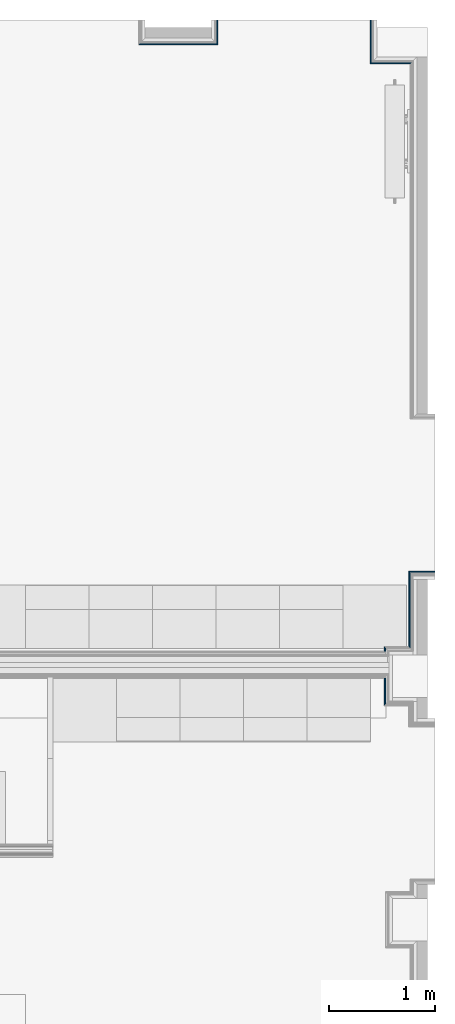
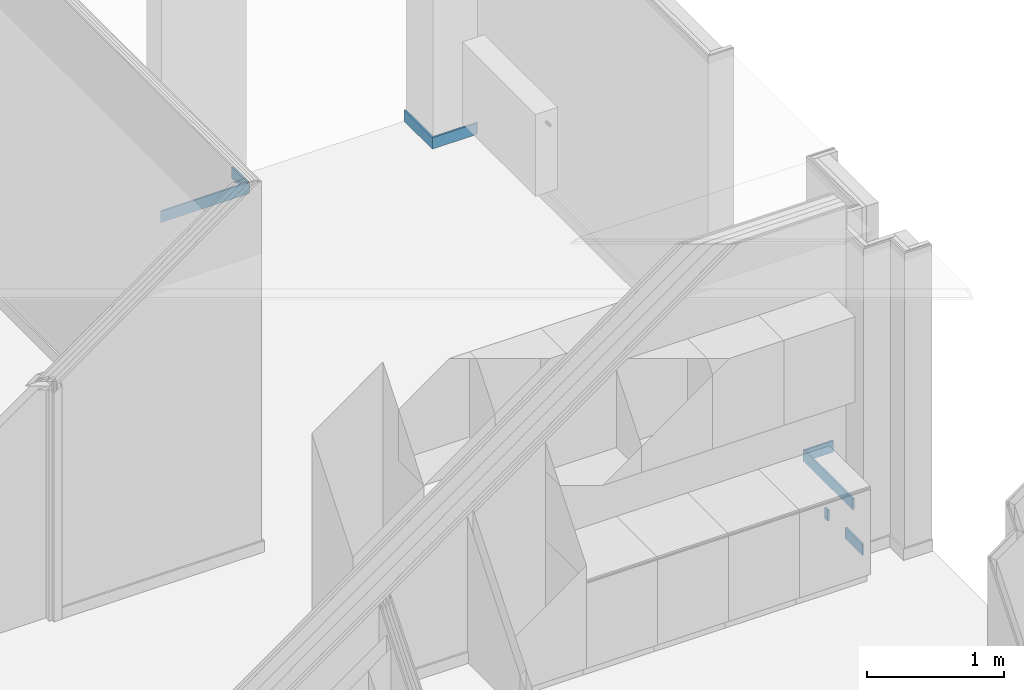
# One storey, part 43 of 65: 8 building element parts, 7 elements without a shape of their own.
"""IFC2X3 building model written with IfcOpenShell, lengths in metres."""

from ifc_helpers import new_model, entity, si_unit, converted_unit, derived_unit, money_unit, direction, frame, origin_with_axes, place, context, subcontext, project, spatial, polyline, outline, extrude, material, type_object, element, aggregate, save


model = new_model("IFC2X3")

# Units and contexts
model_context = context("Model", 3, precision=1e-05, world=origin_with_axes(), true_north=direction((0.0, 1.0)))
body_context = subcontext(model_context, "Body", "Model", "MODEL_VIEW", scale=1.0)
ifc_project = project(units=[si_unit("LENGTHUNIT", "METRE"), si_unit("AREAUNIT", "SQUARE_METRE"), si_unit("VOLUMEUNIT", "CUBIC_METRE"), si_unit("ABSORBEDDOSEUNIT", "GRAY"), si_unit("AMOUNTOFSUBSTANCEUNIT", "MOLE"), si_unit("DOSEEQUIVALENTUNIT", "SIEVERT"), si_unit("ELECTRICCAPACITANCEUNIT", "FARAD"), si_unit("ELECTRICCHARGEUNIT", "COULOMB"), si_unit("ELECTRICCONDUCTANCEUNIT", "SIEMENS"), si_unit("ELECTRICCURRENTUNIT", "AMPERE"), si_unit("ELECTRICRESISTANCEUNIT", "OHM"), si_unit("ELECTRICVOLTAGEUNIT", "VOLT"), si_unit("ENERGYUNIT", "JOULE"), si_unit("FORCEUNIT", "NEWTON"), si_unit("FREQUENCYUNIT", "HERTZ"), si_unit("ILLUMINANCEUNIT", "LUX"), si_unit("INDUCTANCEUNIT", "HENRY"), si_unit("LUMINOUSFLUXUNIT", "LUMEN"), si_unit("LUMINOUSINTENSITYUNIT", "CANDELA"), si_unit("MAGNETICFLUXDENSITYUNIT", "TESLA"), si_unit("MAGNETICFLUXUNIT", "WEBER"), si_unit("MASSUNIT", "GRAM"), converted_unit("PLANEANGLEUNIT", "degree", entity("IfcReal", 0.0174532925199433), si_unit("PLANEANGLEUNIT", "RADIAN"), dimensions=[0, 0, 0, 0, 0, 0, 0]), si_unit("POWERUNIT", "WATT"), si_unit("PRESSUREUNIT", "PASCAL"), si_unit("RADIOACTIVITYUNIT", "BECQUEREL"), si_unit("SOLIDANGLEUNIT", "STERADIAN"), si_unit("THERMODYNAMICTEMPERATUREUNIT", "KELVIN"), si_unit("TIMEUNIT", "SECOND"), derived_unit("ACCELERATIONUNIT", [(si_unit("LENGTHUNIT", "METRE"), 1), (si_unit("TIMEUNIT", "SECOND"), -2)]), derived_unit("ANGULARVELOCITYUNIT", [(converted_unit("PLANEANGLEUNIT", "degree", entity("IfcReal", 0.0174532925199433), si_unit("PLANEANGLEUNIT", "RADIAN"), dimensions=[0, 0, 0, 0, 0, 0, 0]), 1), (si_unit("TIMEUNIT", "SECOND"), -1)]), derived_unit("CURVATUREUNIT", [(converted_unit("PLANEANGLEUNIT", "degree", entity("IfcReal", 0.0174532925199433), si_unit("PLANEANGLEUNIT", "RADIAN"), dimensions=[0, 0, 0, 0, 0, 0, 0]), 1), (si_unit("LENGTHUNIT", "METRE"), -1)]), derived_unit("DYNAMICVISCOSITYUNIT", [(si_unit("PRESSUREUNIT", "PASCAL"), 1), (si_unit("TIMEUNIT", "SECOND"), 1)]), derived_unit("HEATFLUXDENSITYUNIT", [(si_unit("POWERUNIT", "WATT"), 1), (si_unit("LENGTHUNIT", "METRE"), -2)]), derived_unit("HEATINGVALUEUNIT", [(si_unit("ENERGYUNIT", "JOULE"), 1), (si_unit("MASSUNIT", "GRAM"), -1)]), derived_unit("INTEGERCOUNTRATEUNIT", [(si_unit("TIMEUNIT", "SECOND"), -1)]), derived_unit("IONCONCENTRATIONUNIT", [(si_unit("MASSUNIT", "GRAM"), 1), (si_unit("VOLUMEUNIT", "CUBIC_METRE"), -1)]), derived_unit("ISOTHERMALMOISTURECAPACITYUNIT", [(si_unit("VOLUMEUNIT", "CUBIC_METRE"), 1), (si_unit("MASSUNIT", "GRAM"), -1)]), derived_unit("KINEMATICVISCOSITYUNIT", [(si_unit("AREAUNIT", "SQUARE_METRE"), 1), (si_unit("TIMEUNIT", "SECOND"), -1)]), derived_unit("LINEARFORCEUNIT", [(si_unit("FORCEUNIT", "NEWTON"), 1), (si_unit("LENGTHUNIT", "METRE"), -1)]), derived_unit("LINEARMOMENTUNIT", [(si_unit("FORCEUNIT", "NEWTON"), 1), (si_unit("LENGTHUNIT", "METRE"), -1)]), derived_unit("LINEARSTIFFNESSUNIT", [(si_unit("FORCEUNIT", "NEWTON"), 1), (si_unit("LENGTHUNIT", "METRE"), -1)]), derived_unit("LINEARVELOCITYUNIT", [(si_unit("LENGTHUNIT", "METRE"), 1), (si_unit("TIMEUNIT", "SECOND"), -1)]), derived_unit("LUMINOUSINTENSITYDISTRIBUTIONUNIT", [(si_unit("LUMINOUSINTENSITYUNIT", "CANDELA"), 1), (si_unit("LUMINOUSFLUXUNIT", "LUMEN"), -1)]), derived_unit("MASSDENSITYUNIT", [(si_unit("MASSUNIT", "GRAM"), 1), (si_unit("VOLUMEUNIT", "CUBIC_METRE"), -1)]), derived_unit("MASSFLOWRATEUNIT", [(si_unit("MASSUNIT", "GRAM"), 1), (si_unit("TIMEUNIT", "SECOND"), -1)]), derived_unit("MASSPERLENGTHUNIT", [(si_unit("MASSUNIT", "GRAM"), 1), (si_unit("LENGTHUNIT", "METRE"), -1)]), derived_unit("MODULUSOFELASTICITYUNIT", [(si_unit("FORCEUNIT", "NEWTON"), 1), (si_unit("AREAUNIT", "SQUARE_METRE"), -1)]), derived_unit("MODULUSOFLINEARSUBGRADEREACTIONUNIT", [(si_unit("FORCEUNIT", "NEWTON"), 1), (si_unit("LENGTHUNIT", "METRE"), -2)]), derived_unit("MODULUSOFROTATIONALSUBGRADEREACTIONUNIT", [(si_unit("FORCEUNIT", "NEWTON"), 1), (si_unit("LENGTHUNIT", "METRE"), 1)]), derived_unit("MODULUSOFSUBGRADEREACTIONUNIT", [(si_unit("FORCEUNIT", "NEWTON"), 1), (si_unit("VOLUMEUNIT", "CUBIC_METRE"), -1)]), derived_unit("MOISTUREDIFFUSIVITYUNIT", [(si_unit("VOLUMEUNIT", "CUBIC_METRE"), 1), (si_unit("TIMEUNIT", "SECOND"), -1)]), derived_unit("MOLECULARWEIGHTUNIT", [(si_unit("MASSUNIT", "GRAM"), 1), (si_unit("AMOUNTOFSUBSTANCEUNIT", "MOLE"), -1)]), derived_unit("PLANARFORCEUNIT", [(si_unit("FORCEUNIT", "NEWTON"), 1), (si_unit("LENGTHUNIT", "METRE"), -2)]), derived_unit("ROTATIONALFREQUENCYUNIT", [(si_unit("TIMEUNIT", "SECOND"), -1)]), derived_unit("ROTATIONALMASSUNIT", [(si_unit("MASSUNIT", "GRAM"), 1), (si_unit("LENGTHUNIT", "METRE"), 2)]), derived_unit("ROTATIONALSTIFFNESSUNIT", [(si_unit("FORCEUNIT", "NEWTON"), 1), (si_unit("LENGTHUNIT", "METRE"), 1), (converted_unit("PLANEANGLEUNIT", "degree", entity("IfcReal", 0.0174532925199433), si_unit("PLANEANGLEUNIT", "RADIAN"), dimensions=[0, 0, 0, 0, 0, 0, 0]), -1)]), derived_unit("SECTIONAREAINTEGRALUNIT", [(si_unit("LENGTHUNIT", "METRE"), 5)]), derived_unit("SECTIONMODULUSUNIT", [(si_unit("LENGTHUNIT", "METRE"), 3)]), derived_unit("SHEARMODULUSUNIT", [(si_unit("FORCEUNIT", "NEWTON"), 1), (si_unit("AREAUNIT", "SQUARE_METRE"), -1)]), derived_unit("SOUNDPOWERUNIT", [(si_unit("ENERGYUNIT", "JOULE"), 1), (si_unit("TIMEUNIT", "SECOND"), -1)]), derived_unit("SPECIFICHEATCAPACITYUNIT", [(si_unit("FORCEUNIT", "NEWTON"), 1), (si_unit("MASSUNIT", "GRAM"), -1), (si_unit("THERMODYNAMICTEMPERATUREUNIT", "KELVIN"), -1)]), derived_unit("TEMPERATUREGRADIENTUNIT", [(si_unit("THERMODYNAMICTEMPERATUREUNIT", "KELVIN"), 1), (si_unit("LENGTHUNIT", "METRE"), -1)]), derived_unit("THERMALADMITTANCEUNIT", [(si_unit("POWERUNIT", "WATT"), 1), (si_unit("AREAUNIT", "SQUARE_METRE"), -1), (si_unit("THERMODYNAMICTEMPERATUREUNIT", "KELVIN"), -1)]), derived_unit("THERMALCONDUCTANCEUNIT", [(si_unit("POWERUNIT", "WATT"), 1), (si_unit("LENGTHUNIT", "METRE"), -1), (si_unit("THERMODYNAMICTEMPERATUREUNIT", "KELVIN"), -1)]), derived_unit("THERMALEXPANSIONCOEFFICIENTUNIT", [(si_unit("THERMODYNAMICTEMPERATUREUNIT", "KELVIN"), -1)]), derived_unit("THERMALRESISTANCEUNIT", [(si_unit("AREAUNIT", "SQUARE_METRE"), 1), (si_unit("POWERUNIT", "WATT"), -1)]), derived_unit("THERMALTRANSMITTANCEUNIT", [(si_unit("POWERUNIT", "WATT"), 1), (si_unit("AREAUNIT", "SQUARE_METRE"), -1), (si_unit("THERMODYNAMICTEMPERATUREUNIT", "KELVIN"), -1)]), derived_unit("TORQUEUNIT", [(si_unit("FORCEUNIT", "NEWTON"), 1), (si_unit("LENGTHUNIT", "METRE"), 1)]), derived_unit("VAPORPERMEABILITYUNIT", [(si_unit("MASSUNIT", "GRAM"), 1), (si_unit("TIMEUNIT", "SECOND"), -1)]), derived_unit("VOLUMETRICFLOWRATEUNIT", [(si_unit("VOLUMEUNIT", "CUBIC_METRE"), 1), (si_unit("TIMEUNIT", "SECOND"), -1)]), derived_unit("WARPINGCONSTANTUNIT", [(si_unit("LENGTHUNIT", "METRE"), 6)]), derived_unit("WARPINGMOMENTUNIT", [(si_unit("FORCEUNIT", "NEWTON"), 1), (si_unit("LENGTHUNIT", "METRE"), 2)]), money_unit("GBP")], contexts=[model_context])

# Site, building, storey
site_placement = place(None, origin_with_axes())
site = spatial("IfcSite", under=ifc_project, at=site_placement, Name="Site", CompositionType="ELEMENT")
building_placement = place(site_placement, origin_with_axes())
building = spatial("IfcBuilding", under=site, at=building_placement, Name="Building01", CompositionType="ELEMENT")
storey_placement = place(building_placement, frame((0.0, 0.0, 8.64), z_axis=(0.0, 0.0, 1.0), x_axis=(1.0, 0.0, 0.0)))
storey = spatial("IfcBuildingStorey", under=building, at=storey_placement, Name="2F", CompositionType="ELEMENT", Elevation=8.64)

# Wall, building element part
wall_type_1 = type_object("IfcWallType", Name="SHE_A-Walls_Type06d_ExternalWallInsulation_48mm", PredefinedType="NOTDEFINED")
wall_1_placement = place(storey_placement, frame((24.767, 14.8, 0.0), z_axis=(0.0, 0.0, 1.0), x_axis=(0.0, -1.0, 0.0)))
wall_1 = element("IfcWall", 1, at=wall_1_placement, inside=storey, type_object=wall_type_1, Name="6D", ObjectType="SHE_A-Walls_Type06d_ExternalWallInsulation_48mm")
ifc_material = material(Name="A_BSUK_Walls_Timber")
building_element_part_1_placement = place(wall_1_placement, origin_with_axes())
building_element_part_1 = element("IfcBuildingElementPart", 2, at=building_element_part_1_placement, material=ifc_material, Name="3", context=body_context, shape_type="SweptSolid", body=[
    extrude(outline(polyline([(0.233, 0.063), (0.0, 0.063), (0.0, 0.048), (0.218, 0.048), (0.233, 0.063)])), frame((0.0, 0.0, 0.015), z_axis=(0.0, 0.0, 1.0), x_axis=(1.0, 0.0, 0.0)), (0.0, 0.0, 1.0), 0.1),
])
aggregate(wall_1, [building_element_part_1])

wall_2_placement = place(storey_placement, frame((24.767, 14.63, 0.0), z_axis=(0.0, 0.0, 1.0), x_axis=(-1.0, 0.0, 0.0)))
wall_2 = element("IfcWall", 3, at=wall_2_placement, inside=storey, type_object=wall_type_1, Name="6D", ObjectType="SHE_A-Walls_Type06d_ExternalWallInsulation_48mm")
building_element_part_2_placement = place(wall_2_placement, origin_with_axes())
building_element_part_2 = element("IfcBuildingElementPart", 4, at=building_element_part_2_placement, material=ifc_material, Name="3", context=body_context, shape_type="SweptSolid", body=[
    extrude(outline(polyline([(0.687, 0.063), (-0.063, 0.063), (-0.048, 0.048), (0.672, 0.048), (0.687, 0.063)])), frame((0.0, 0.0, 0.015), z_axis=(0.0, 0.0, 1.0), x_axis=(1.0, 0.0, 0.0)), (0.0, 0.0, 1.0), 0.1),
])
aggregate(wall_2, [building_element_part_2])

wall_3_placement = place(storey_placement, frame((26.71, 14.45, 0.0), z_axis=(0.0, 0.0, 1.0), x_axis=(-1.0, 0.0, 0.0)))
wall_3 = element("IfcWall", 5, at=wall_3_placement, inside=storey, type_object=wall_type_1, Name="6D", ObjectType="SHE_A-Walls_Type06d_ExternalWallInsulation_48mm")
building_element_part_3_placement = place(wall_3_placement, origin_with_axes())
building_element_part_3 = element("IfcBuildingElementPart", 6, at=building_element_part_3_placement, material=ifc_material, Name="3", context=body_context, shape_type="SweptSolid", body=[
    extrude(outline(polyline([(0.44, 0.063), (0.063, 0.063), (0.048, 0.048), (0.425, 0.048), (0.44, 0.063)])), frame((0.0, 0.0, 0.015), z_axis=(0.0, 0.0, 1.0), x_axis=(1.0, 0.0, 0.0)), (0.0, 0.0, 1.0), 0.1),
])
aggregate(wall_3, [building_element_part_3])

wall_4_placement = place(storey_placement, frame((26.333, 14.45, 0.0), z_axis=(0.0, 0.0, 1.0), x_axis=(0.0, 1.0, 0.0)))
wall_4 = element("IfcWall", 7, at=wall_4_placement, inside=storey, type_object=wall_type_1, Name="6D", ObjectType="SHE_A-Walls_Type06d_ExternalWallInsulation_48mm")
building_element_part_4_placement = place(wall_4_placement, origin_with_axes())
building_element_part_4 = element("IfcBuildingElementPart", 8, at=building_element_part_4_placement, material=ifc_material, Name="3", context=body_context, shape_type="SweptSolid", body=[
    extrude(outline(polyline([(-0.063, 0.063), (-0.048, 0.048), (0.35, 0.048), (0.35, 0.063), (-0.063, 0.063)])), frame((0.0, 0.0, 0.015), z_axis=(0.0, 0.0, 1.0), x_axis=(1.0, 0.0, 0.0)), (0.0, 0.0, 1.0), 0.1),
])
aggregate(wall_4, [building_element_part_4])

wall_type_2 = type_object("IfcWallType", Name="SHE_A-Walls_Type06f_ExternalWallInsulation_48+15mm", PredefinedType="NOTDEFINED")
wall_5_placement = place(storey_placement, frame((26.71, 9.51418, 0.0), z_axis=(0.0, 0.0, 1.0), x_axis=(0.0, -1.0, 0.0)))
wall_5 = element("IfcWall", 9, at=wall_5_placement, inside=storey, type_object=wall_type_2, Name="6F", ObjectType="SHE_A-Walls_Type06f_ExternalWallInsulation_48+15mm")
building_element_part_5_placement = place(wall_5_placement, origin_with_axes())
building_element_part_5 = element("IfcBuildingElementPart", 10, at=building_element_part_5_placement, material=ifc_material, Name="1", context=body_context, shape_type="SweptSolid", body=[
    extrude(outline(polyline([(0.65118, -0.063), (-0.063, -0.063), (-0.078, -0.078), (0.63618, -0.078), (0.65118, -0.063)])), frame((0.0, 0.0, 0.015), z_axis=(0.0, 0.0, 1.0), x_axis=(1.0, 0.0, 0.0)), (0.0, 0.0, 1.0), 0.1),
])
aggregate(wall_5, [building_element_part_5])

wall_6_placement = place(storey_placement, frame((26.88, 9.51418, 0.0), z_axis=(0.0, 0.0, 1.0), x_axis=(-1.0, 0.0, 0.0)))
wall_6 = element("IfcWall", 11, at=wall_6_placement, inside=storey, type_object=wall_type_2, Name="6F", ObjectType="SHE_A-Walls_Type06f_ExternalWallInsulation_48+15mm")
building_element_part_6_placement = place(wall_6_placement, origin_with_axes())
building_element_part_6 = element("IfcBuildingElementPart", 12, at=building_element_part_6_placement, material=ifc_material, Name="1", context=body_context, shape_type="SweptSolid", body=[
    extrude(outline(polyline([(0.233, -0.063), (0.0, -0.063), (0.0, -0.078), (0.248, -0.078), (0.233, -0.063)])), frame((0.0, 0.0, 0.015), z_axis=(0.0, 0.0, 1.0), x_axis=(1.0, 0.0, 0.0)), (0.0, 0.0, 1.0), 0.1),
])
aggregate(wall_6, [building_element_part_6])

# Wall, building element parts
wall_7_placement = place(storey_placement, frame((26.48, 8.8, 0.0), z_axis=(0.0, 0.0, 1.0), x_axis=(0.0, -1.0, 0.0)))
wall_7 = element("IfcWall", 13, at=wall_7_placement, inside=storey, type_object=wall_type_2, Name="6F", ObjectType="SHE_A-Walls_Type06f_ExternalWallInsulation_48+15mm")
placement = place(wall_7_placement, origin_with_axes())
building_element_part_7 = element("IfcBuildingElementPart", 14, at=placement, material=ifc_material, Name="1", context=body_context, shape_type="SweptSolid", body=[
    extrude(outline(polyline([(-0.063, -0.063), (-0.078, -0.078), (-0.035, -0.078), (-0.035, -0.063), (-0.063, -0.063)])), frame((0.0, 0.0, 0.015), z_axis=(0.0, 0.0, 1.0), x_axis=(1.0, 0.0, 0.0)), (0.0, 0.0, 1.0), 0.1),
])
building_element_part_8 = element("IfcBuildingElementPart", 15, at=placement, material=ifc_material, Name="2", context=body_context, shape_type="SweptSolid", body=[
    extrude(outline(polyline([(0.463, -0.063), (0.22, -0.063), (0.22, -0.078), (0.478, -0.078), (0.463, -0.063)])), frame((0.0, 0.0, 0.015), z_axis=(0.0, 0.0, 1.0), x_axis=(1.0, 0.0, 0.0)), (0.0, 0.0, 1.0), 0.1),
])
aggregate(wall_7, [building_element_part_7, building_element_part_8])

save(model, "model.ifc")
